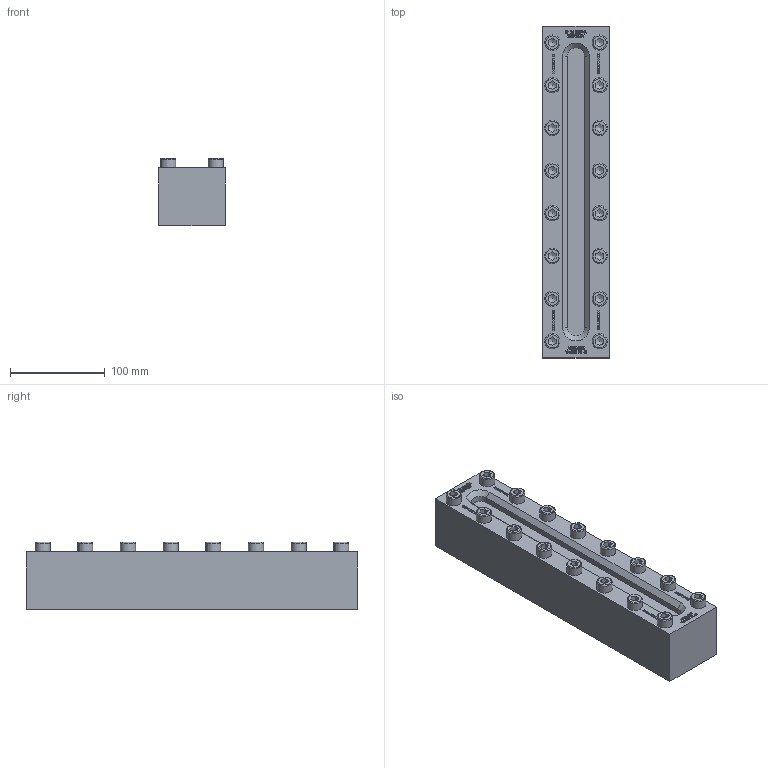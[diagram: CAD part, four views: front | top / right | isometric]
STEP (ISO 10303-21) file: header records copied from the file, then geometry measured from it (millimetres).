
FILE_DESCRIPTION(/* description */ (''),/* implementation_level */ '2;1');
FILE_NAME(/* name */ 'W:\Konstruktion_ACI\330\_Zeichnungen\STEP\ACI-330-350-40.stp',/* time_stamp */ '2022-03-01T17:14:15+01:00',/* author */ ('koslowksi'),/* organization */ (''),/* preprocessor_version */ 'ST-DEVELOPER v16.1',/* originating_system */ 'Autodesk Inventor 2016',/* authorisation */ '');
FILE_SCHEMA (('AUTOMOTIVE_DESIGN { 1 0 10303 214 3 1 1 }'));
Length unit declared in the file: centimetre
Products named in the file (1): ACI-330-350-40.stp
Bounding box: 70 x 350 x 70.9 mm (x, y, z)
Volume: 1345342.5 mm3; surface area: 128069.2 mm2
Topology: 1 solids, 1 shells, 1276 faces, 3442 edges, 2288 vertices
Faces by surface type: plane 920, bspline 302, cylinder 20, cone 18, torus 16
Full cylindrical faces by diameter (mm): 16 x16
Entity records: 41684 total; most frequent: CARTESIAN_POINT 11013, ORIENTED_EDGE 6724, DIRECTION 4670, EDGE_CURVE 3362, LINE 2604, VECTOR 2604, VERTEX_POINT 2256, EDGE_LOOP 1444
